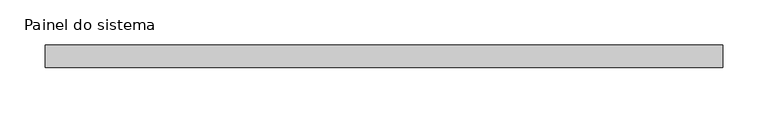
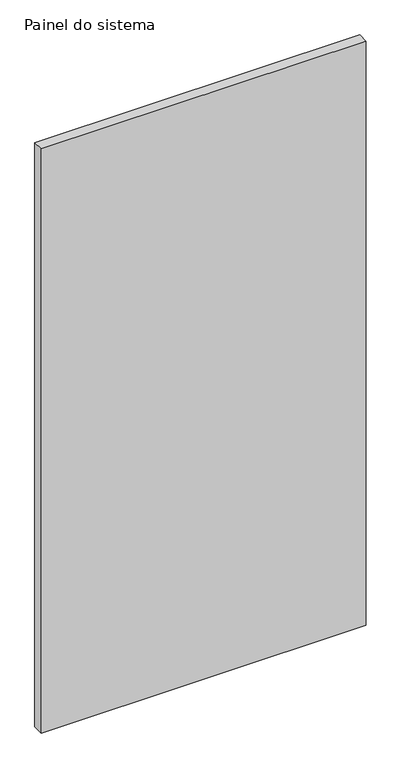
"""IFC4 building model written with IfcOpenShell, lengths in millimetres: plate geometry, Painel do sistema : Envidraçado."""

import ifcopenshell
import ifcopenshell.guid

model = None  # the IFC model being written
_history = None  # IfcOwnerHistory: only IFC2X3 demands one
_inside = {}  # id of a spatial element -> (the spatial element, [elements in it])
_under = {}  # id of a project, library or spatial element -> (it, [spatial elements below it])
_declared = {}  # id of a project -> (the project, [libraries it declares])
_typed = {}  # id of a type object -> (the type object, [elements of that type])
_made_of = {}  # id of a material, layer set ... -> (it, [elements and type objects made of it])


def new_model(schema):
    """Start an empty IFC model of exactly this schema.

    Asked for "IFC4X3", IfcOpenShell would pick the latest addendum, in which some entities
    have other attributes; the version numbers below select the first issue.
    IFC2X3 requires an IfcOwnerHistory on every rooted entity: one is made here for all.
    """
    global model, _history
    if schema == "IFC4X3":
        model = ifcopenshell.file(schema_version=(4, 3, 0, 0))
    else:
        model = ifcopenshell.file(schema=schema)
    _inside.clear()
    _under.clear()
    _declared.clear()
    _typed.clear()
    _made_of.clear()
    _history = None
    if model.schema == "IFC2X3":
        org = make("IfcOrganization", Name="unknown")
        user = make(
            "IfcPersonAndOrganization",
            ThePerson=make("IfcPerson", FamilyName="unknown"),
            TheOrganization=org,
        )
        app = make(
            "IfcApplication",
            ApplicationDeveloper=org,
            Version="unknown",
            ApplicationFullName="unknown",
            ApplicationIdentifier="unknown",
        )
        _history = make(
            "IfcOwnerHistory",
            OwningUser=user,
            OwningApplication=app,
            ChangeAction="ADDED",
            CreationDate=0,
        )
    return model


def make(cls, **values):
    """One entity of the class cls with the attributes given. An attribute that is None is left unset."""
    return model.create_entity(
        cls, **{name: value for name, value in values.items() if value is not None}
    )


def rooted(cls, **values):
    """An entity with a GlobalId (a new one), such as an element, a storey or a relation."""
    return make(cls, GlobalId=ifcopenshell.guid.new(), OwnerHistory=_history, **values)


def si_unit(unit_type, name, prefix=None):
    """IfcSIUnit, for example si_unit("LENGTHUNIT", "METRE", prefix="MILLI")."""
    return make("IfcSIUnit", UnitType=unit_type, Prefix=prefix, Name=name)


def assignment(units):
    """IfcUnitAssignment: the units of a project."""
    return None if units is None else make("IfcUnitAssignment", Units=units)


def point(xyz):
    """IfcCartesianPoint."""
    return None if xyz is None else make("IfcCartesianPoint", Coordinates=xyz)


def direction(xyz):
    """IfcDirection."""
    return None if xyz is None else make("IfcDirection", DirectionRatios=xyz)


def frame(location, z_axis=None, x_axis=None):
    """IfcAxis2Placement3D, a coordinate frame: its origin and axes. An axis left out is left unset."""
    return make(
        "IfcAxis2Placement3D",
        Location=point(location),
        Axis=direction(z_axis),
        RefDirection=direction(x_axis),
    )


def origin():
    """The frame at (0, 0, 0) with its axes left unset."""
    return frame((0.0, 0.0, 0.0))


def origin_with_axes():
    """The frame at (0, 0, 0) with the z axis (0, 0, 1) and the x axis (1, 0, 0) written out."""
    return frame((0.0, 0.0, 0.0), z_axis=(0.0, 0.0, 1.0), x_axis=(1.0, 0.0, 0.0))


def place(relative_to, where):
    """IfcLocalPlacement: puts the frame where relative to a parent placement (None: the world)."""
    return make(
        "IfcLocalPlacement", PlacementRelTo=relative_to, RelativePlacement=where
    )


def context(
    kind, dimensions, precision=None, world=None, true_north=None, identifier=None
):
    """IfcGeometricRepresentationContext, for example the 3D "Model" context."""
    return make(
        "IfcGeometricRepresentationContext",
        ContextIdentifier=identifier,
        ContextType=kind,
        CoordinateSpaceDimension=dimensions,
        Precision=precision,
        WorldCoordinateSystem=world,
        TrueNorth=true_north,
    )


def project(units=None, contexts=None):
    """IfcProject with its units and contexts."""
    return rooted(
        "IfcProject",
        Name="project",
        RepresentationContexts=contexts,
        UnitsInContext=assignment(units),
    )


def spatial(cls, under=None, at=None, **own):
    """A site, building, storey or space (cls), placed at a placement, below another one or the project."""
    s = rooted(cls, ObjectPlacement=at, **own)
    if under is not None:
        _under.setdefault(under.id(), (under, []))[1].append(s)
    return s


def polyline(points):
    """IfcPolyline through the points."""
    return make("IfcPolyline", Points=[point(p) for p in points])


def outline(outer, holes=None, kind="AREA"):
    """IfcArbitraryClosedProfileDef: a profile drawn as a closed curve; with holes, ...WithVoids."""
    if holes is None:
        return make("IfcArbitraryClosedProfileDef", ProfileType=kind, OuterCurve=outer)
    return make(
        "IfcArbitraryProfileDefWithVoids",
        ProfileType=kind,
        OuterCurve=outer,
        InnerCurves=holes,
    )


def extrude(swept, where, along, depth):
    """IfcExtrudedAreaSolid: the profile swept, set in the frame where, extruded along a direction by depth."""
    return make(
        "IfcExtrudedAreaSolid",
        SweptArea=swept,
        Position=where,
        ExtrudedDirection=direction(along),
        Depth=depth,
    )


def shape(context_of_items, identifier, shape_type, items):
    """IfcShapeRepresentation: the items that make up one representation, for example the "Body"."""
    return make(
        "IfcShapeRepresentation",
        ContextOfItems=context_of_items,
        RepresentationIdentifier=identifier,
        RepresentationType=shape_type,
        Items=items,
    )


def source(mapping_origin, context_of_items, identifier, shape_type, items):
    """IfcRepresentationMap: a shape defined once, which mapped items show again and again."""
    return make(
        "IfcRepresentationMap",
        MappingOrigin=mapping_origin,
        MappedRepresentation=shape(context_of_items, identifier, shape_type, items),
    )


def transform(
    local_origin,
    x_axis=None,
    y_axis=None,
    z_axis=None,
    scale=None,
    scale2=None,
    scale3=None,
    uniform=True,
):
    """IfcCartesianTransformationOperator3D, or its non-uniform kind. x_axis, y_axis, z_axis: its Axis1, 2, 3."""
    if uniform:
        return make(
            "IfcCartesianTransformationOperator3D",
            Axis1=direction(x_axis),
            Axis2=direction(y_axis),
            LocalOrigin=point(local_origin),
            Scale=scale,
            Axis3=direction(z_axis),
        )
    return make(
        "IfcCartesianTransformationOperator3DnonUniform",
        Axis1=direction(x_axis),
        Axis2=direction(y_axis),
        LocalOrigin=point(local_origin),
        Scale=scale,
        Axis3=direction(z_axis),
        Scale2=scale2,
        Scale3=scale3,
    )


def mapped(mapping_source, mapping_target):
    """IfcMappedItem: shows the shape of a source again, moved by a transform."""
    return make(
        "IfcMappedItem", MappingSource=mapping_source, MappingTarget=mapping_target
    )


def made_of(thing, what):
    """Note that an element or type object is made of a material, layer set ...; save() writes the relation."""
    if what is not None:
        _made_of.setdefault(what.id(), (what, []))[1].append(thing)
    return thing


def element(
    cls,
    number,
    at=None,
    inside=None,
    cuts=None,
    type_object=None,
    material=None,
    context=None,
    identifier="Body",
    shape_type=None,
    held_by="IfcProductDefinitionShape",
    body=None,
    shapes=None,
    **own,
):
    """One element of the class cls, such as IfcWall. Its Tag is "e" and its number.

    at: its placement. inside: the storey or other place that contains it. cuts: it is an
    opening in that element (IfcRelVoidsElement). A single representation is given by context,
    identifier, shape_type and body (its items); several are given by shapes. held_by: the class
    of the entity that holds the representations. save() writes the other relations.
    """
    e = rooted(cls, Tag="e%d" % number, ObjectPlacement=at, **own)
    if body is not None:
        shapes = [shape(context, identifier, shape_type, body)]
    if shapes is not None:
        e.Representation = make(held_by, Representations=shapes)
    if inside is not None:
        _inside.setdefault(inside.id(), (inside, []))[1].append(e)
    if cuts is not None:
        rooted(
            "IfcRelVoidsElement", RelatingBuildingElement=cuts, RelatedOpeningElement=e
        )
    if type_object is not None:
        _typed.setdefault(type_object.id(), (type_object, []))[1].append(e)
    return made_of(e, material)


def aggregate(whole, parts):
    """IfcRelAggregates: a whole, such as a stair, and the parts it consists of."""
    return rooted("IfcRelAggregates", RelatingObject=whole, RelatedObjects=parts)


def save(model, path):
    """Write the relations noted so far, then the file.

    IfcRelAggregates (storeys below a building ...), IfcRelContainedInSpatialStructure (elements
    in a storey), IfcRelDefinesByType, IfcRelAssociatesMaterial and IfcRelDeclares: one each for
    every whole, place, type object, material and project.
    """
    for whole, parts in _under.values():
        aggregate(whole, parts)
    for where, things in _inside.values():
        rooted(
            "IfcRelContainedInSpatialStructure",
            RelatedElements=things,
            RelatingStructure=where,
        )
    for kind, things in _typed.values():
        rooted("IfcRelDefinesByType", RelatedObjects=things, RelatingType=kind)
    for what, things in _made_of.values():
        rooted("IfcRelAssociatesMaterial", RelatedObjects=things, RelatingMaterial=what)
    for by, libraries in _declared.values():
        rooted("IfcRelDeclares", RelatingContext=by, RelatedDefinitions=libraries)
    model.write(path)


def painel_do_sistema_6cab9f85(model_context):
    return source(origin(), model_context, "Body", "SweptSolid", [
        extrude(outline(polyline([(375.0, 24.5), (-375.0, 24.5), (-375.0, 49.5), (375.0, 49.5), (375.0, 24.5)])), origin_with_axes(), (0.0, 0.0, 1.0), 1425.0),
    ])


if __name__ == "__main__":
    model = new_model("IFC4")
    model_context = context("Model", 3, world=origin())
    ifc_project = project(units=[si_unit("LENGTHUNIT", "METRE", prefix="MILLI")], contexts=[model_context])
    site = spatial("IfcSite", under=ifc_project)
    building = spatial("IfcBuilding", under=site)
    placement = place(None, origin())
    painel_do_sistema_shape = painel_do_sistema_6cab9f85(model_context)
    element("IfcPlate", 1, ObjectType="Painel do sistema : Envidraçado", at=placement, inside=building, context=model_context, shape_type="MappedRepresentation", body=[
        mapped(painel_do_sistema_shape, transform((0.0, 0.0, 0.0), x_axis=(1.0, 0.0, 0.0), y_axis=(0.0, 1.0, 0.0), z_axis=(0.0, 0.0, 1.0))),
    ])
    save(model, "model.ifc")
